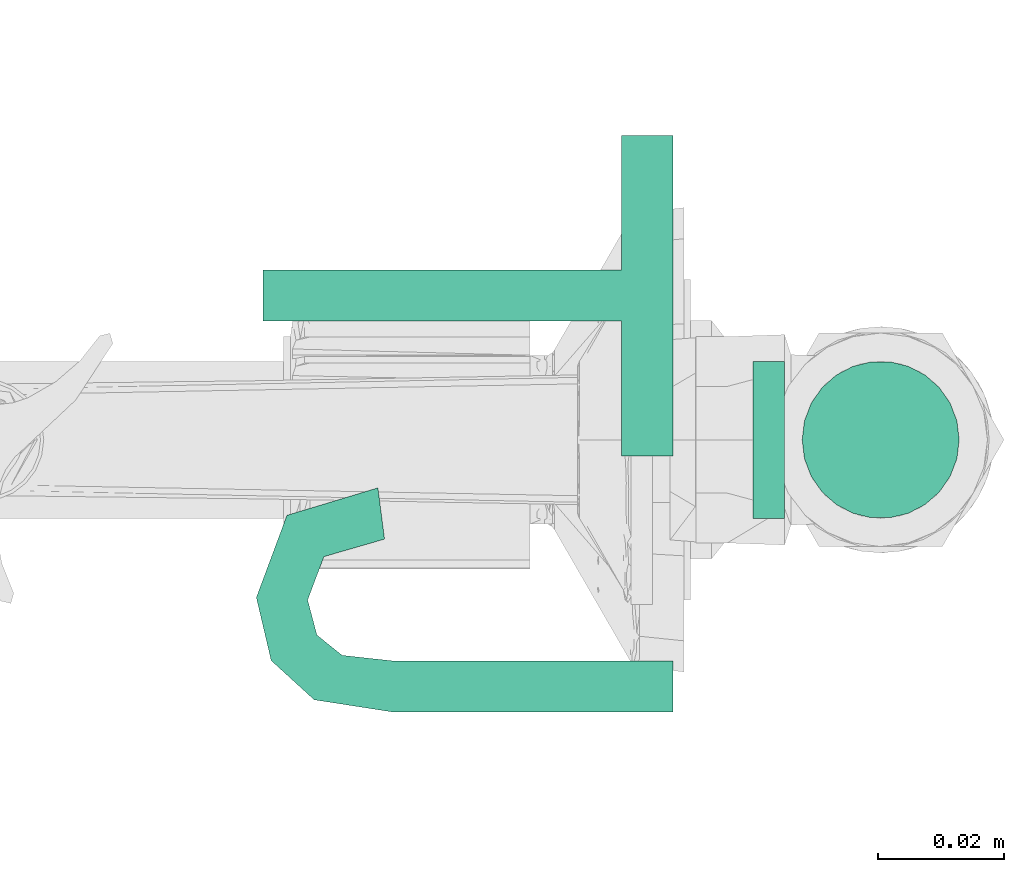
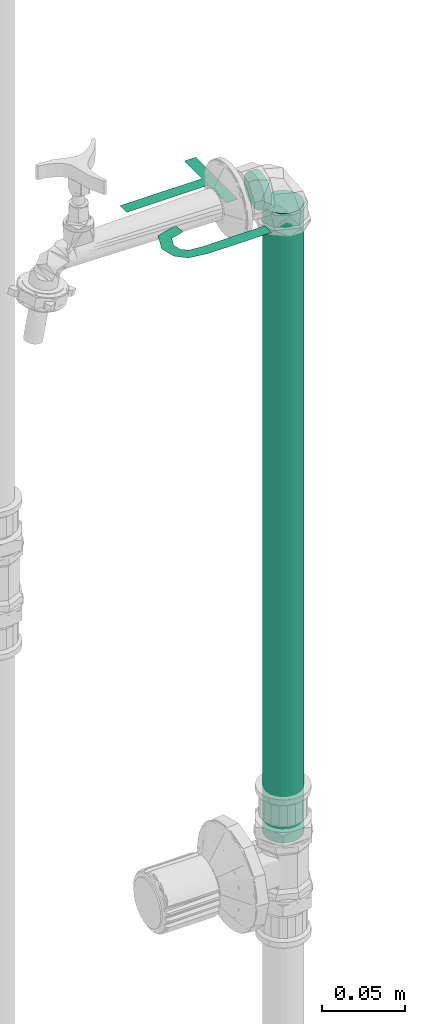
# One storey, part 302 of 589: 1 flow segment, 1 flow terminal.
"""IFC2X3 building model written with IfcOpenShell, lengths in millimetres."""

import ifcopenshell
import ifcopenshell.guid

model = None  # the IFC model being written
_history = None  # IfcOwnerHistory: only IFC2X3 demands one
_inside = {}  # id of a spatial element -> (the spatial element, [elements in it])
_under = {}  # id of a project, library or spatial element -> (it, [spatial elements below it])
_declared = {}  # id of a project -> (the project, [libraries it declares])
_typed = {}  # id of a type object -> (the type object, [elements of that type])
_made_of = {}  # id of a material, layer set ... -> (it, [elements and type objects made of it])


def new_model(schema):
    """Start an empty IFC model of exactly this schema.

    Asked for "IFC4X3", IfcOpenShell would pick the latest addendum, in which some entities
    have other attributes; the version numbers below select the first issue.
    IFC2X3 requires an IfcOwnerHistory on every rooted entity: one is made here for all.
    """
    global model, _history
    if schema == "IFC4X3":
        model = ifcopenshell.file(schema_version=(4, 3, 0, 0))
    else:
        model = ifcopenshell.file(schema=schema)
    _inside.clear()
    _under.clear()
    _declared.clear()
    _typed.clear()
    _made_of.clear()
    _history = None
    if model.schema == "IFC2X3":
        org = make("IfcOrganization", Name="unknown")
        user = make(
            "IfcPersonAndOrganization",
            ThePerson=make("IfcPerson", FamilyName="unknown"),
            TheOrganization=org,
        )
        app = make(
            "IfcApplication",
            ApplicationDeveloper=org,
            Version="unknown",
            ApplicationFullName="unknown",
            ApplicationIdentifier="unknown",
        )
        _history = make(
            "IfcOwnerHistory",
            OwningUser=user,
            OwningApplication=app,
            ChangeAction="ADDED",
            CreationDate=0,
        )
    return model


def make(cls, **values):
    """One entity of the class cls with the attributes given. An attribute that is None is left unset."""
    return model.create_entity(
        cls, **{name: value for name, value in values.items() if value is not None}
    )


def entity(cls, *values):
    """Any entity or typed value of the class cls, its attributes in the order of the schema. None: left unset."""
    e = model.create_entity(cls)
    for i, value in enumerate(values):
        if value is not None:
            e[i] = value
    return e


def rooted(cls, **values):
    """An entity with a GlobalId (a new one), such as an element, a storey or a relation."""
    return make(cls, GlobalId=ifcopenshell.guid.new(), OwnerHistory=_history, **values)


def si_unit(unit_type, name, prefix=None):
    """IfcSIUnit, for example si_unit("LENGTHUNIT", "METRE", prefix="MILLI")."""
    return make("IfcSIUnit", UnitType=unit_type, Prefix=prefix, Name=name)


def converted_unit(unit_type, name, factor, base, dimensions=None, offset=None):
    """IfcConversionBasedUnit, such as the inch: factor (a typed value) times the base unit."""
    return make(
        "IfcConversionBasedUnit"
        if offset is None
        else "IfcConversionBasedUnitWithOffset",
        ConversionOffset=offset,
        Dimensions=None
        if dimensions is None
        else entity("IfcDimensionalExponents", *dimensions),
        UnitType=unit_type,
        Name=name,
        ConversionFactor=make(
            "IfcMeasureWithUnit", ValueComponent=factor, UnitComponent=base
        ),
    )


def derived_unit(unit_type, elements):
    """IfcDerivedUnit: a product of units, each with its exponent."""
    return make(
        "IfcDerivedUnit",
        Elements=[
            make("IfcDerivedUnitElement", Unit=unit, Exponent=power)
            for unit, power in elements
        ],
        UnitType=unit_type,
    )


def assignment(units):
    """IfcUnitAssignment: the units of a project."""
    return None if units is None else make("IfcUnitAssignment", Units=units)


def point(xyz):
    """IfcCartesianPoint."""
    return None if xyz is None else make("IfcCartesianPoint", Coordinates=xyz)


def direction(xyz):
    """IfcDirection."""
    return None if xyz is None else make("IfcDirection", DirectionRatios=xyz)


def frame(location, z_axis=None, x_axis=None):
    """IfcAxis2Placement3D, a coordinate frame: its origin and axes. An axis left out is left unset."""
    return make(
        "IfcAxis2Placement3D",
        Location=point(location),
        Axis=direction(z_axis),
        RefDirection=direction(x_axis),
    )


def frame_2d(location, x_axis=None):
    """IfcAxis2Placement2D, a coordinate frame in the plane: its origin and x axis."""
    return make(
        "IfcAxis2Placement2D", Location=point(location), RefDirection=direction(x_axis)
    )


def origin():
    """The frame at (0, 0, 0) with its axes left unset."""
    return frame((0.0, 0.0, 0.0))


def origin_2d_with_axis():
    """The frame at (0, 0) in the plane with the x axis (1, 0) written out."""
    return frame_2d((0.0, 0.0), x_axis=(1.0, 0.0))


def place(relative_to, where):
    """IfcLocalPlacement: puts the frame where relative to a parent placement (None: the world)."""
    return make(
        "IfcLocalPlacement", PlacementRelTo=relative_to, RelativePlacement=where
    )


def context(
    kind, dimensions, precision=None, world=None, true_north=None, identifier=None
):
    """IfcGeometricRepresentationContext, for example the 3D "Model" context."""
    return make(
        "IfcGeometricRepresentationContext",
        ContextIdentifier=identifier,
        ContextType=kind,
        CoordinateSpaceDimension=dimensions,
        Precision=precision,
        WorldCoordinateSystem=world,
        TrueNorth=true_north,
    )


def subcontext(parent, identifier, kind, view, scale=None):
    """IfcGeometricRepresentationSubContext, for example "Body" below "Model"."""
    return make(
        "IfcGeometricRepresentationSubContext",
        ContextIdentifier=identifier,
        ContextType=kind,
        ParentContext=parent,
        TargetScale=scale,
        TargetView=view,
    )


def project(units=None, contexts=None):
    """IfcProject with its units and contexts."""
    return rooted(
        "IfcProject",
        Name="project",
        RepresentationContexts=contexts,
        UnitsInContext=assignment(units),
    )


def spatial(cls, under=None, at=None, **own):
    """A site, building, storey or space (cls), placed at a placement, below another one or the project."""
    s = rooted(cls, ObjectPlacement=at, **own)
    if under is not None:
        _under.setdefault(under.id(), (under, []))[1].append(s)
    return s


def profile(cls, at=None, kind="AREA", **sizes):
    """A parametric profile (cls). Its sizes go by their IFC names, for example OverallWidth=200.0."""
    return make(cls, ProfileType=kind, Position=at, **sizes)


def circle(**sizes):
    """IfcCircleProfileDef."""
    return profile("IfcCircleProfileDef", **sizes)


def extrude(swept, where, along, depth):
    """IfcExtrudedAreaSolid: the profile swept, set in the frame where, extruded along a direction by depth."""
    return make(
        "IfcExtrudedAreaSolid",
        SweptArea=swept,
        Position=where,
        ExtrudedDirection=direction(along),
        Depth=depth,
    )


def faces_of(points, faces, orient=None, outer=None):
    """IfcFace entities. A face is a list of loops; a loop is a list of indices into points, from 0.

    orient and outer hold one flag for each loop. By default every Orientation is true, the
    first loop of a face is its IfcFaceOuterBound and the others are IfcFaceBound.
    """
    made = []
    for i, loops in enumerate(faces):
        bounds = []
        for j, loop in enumerate(loops):
            is_outer = j == 0 if outer is None else outer[i][j]
            bounds.append(
                make(
                    "IfcFaceOuterBound" if is_outer else "IfcFaceBound",
                    Bound=make("IfcPolyLoop", Polygon=[points[k] for k in loop]),
                    Orientation=True if orient is None else orient[i][j],
                )
            )
        made.append(make("IfcFace", Bounds=bounds))
    return made


def face_set(faces, orient=None, outer=None):
    """The faces of one IfcConnectedFaceSet. surface_model builds it on its shared points."""
    return ("IfcConnectedFaceSet", faces, orient, outer)


def surface_model(cls, points, shells):
    """IfcFaceBasedSurfaceModel or IfcShellBasedSurfaceModel (cls): surfaces that need not close."""
    shared = [point(p) for p in points]
    made = [make(c, CfsFaces=faces_of(shared, fs, o, b)) for c, fs, o, b in shells]
    if cls == "IfcFaceBasedSurfaceModel":
        return make(cls, FbsmFaces=made)
    return make(cls, SbsmBoundary=made)


def shape(context_of_items, identifier, shape_type, items):
    """IfcShapeRepresentation: the items that make up one representation, for example the "Body"."""
    return make(
        "IfcShapeRepresentation",
        ContextOfItems=context_of_items,
        RepresentationIdentifier=identifier,
        RepresentationType=shape_type,
        Items=items,
    )


def source(mapping_origin, context_of_items, identifier, shape_type, items):
    """IfcRepresentationMap: a shape defined once, which mapped items show again and again."""
    return make(
        "IfcRepresentationMap",
        MappingOrigin=mapping_origin,
        MappedRepresentation=shape(context_of_items, identifier, shape_type, items),
    )


def transform(
    local_origin,
    x_axis=None,
    y_axis=None,
    z_axis=None,
    scale=None,
    scale2=None,
    scale3=None,
    uniform=True,
):
    """IfcCartesianTransformationOperator3D, or its non-uniform kind. x_axis, y_axis, z_axis: its Axis1, 2, 3."""
    if uniform:
        return make(
            "IfcCartesianTransformationOperator3D",
            Axis1=direction(x_axis),
            Axis2=direction(y_axis),
            LocalOrigin=point(local_origin),
            Scale=scale,
            Axis3=direction(z_axis),
        )
    return make(
        "IfcCartesianTransformationOperator3DnonUniform",
        Axis1=direction(x_axis),
        Axis2=direction(y_axis),
        LocalOrigin=point(local_origin),
        Scale=scale,
        Axis3=direction(z_axis),
        Scale2=scale2,
        Scale3=scale3,
    )


def mapped(mapping_source, mapping_target):
    """IfcMappedItem: shows the shape of a source again, moved by a transform."""
    return make(
        "IfcMappedItem", MappingSource=mapping_source, MappingTarget=mapping_target
    )


def material(Name=None, Category=None):
    """IfcMaterial."""
    return make("IfcMaterial", Name=Name, Category=Category)


def made_of(thing, what):
    """Note that an element or type object is made of a material, layer set ...; save() writes the relation."""
    if what is not None:
        _made_of.setdefault(what.id(), (what, []))[1].append(thing)
    return thing


def type_object(cls, material=None, **own):
    """A type object (cls), such as IfcWallType, which elements share."""
    return made_of(rooted(cls, **own), material)


def type_shapes(of_type, sources):
    """Give a type object the sources (RepresentationMaps) that its elements show as mapped items."""
    of_type.RepresentationMaps = sources


def element(
    cls,
    number,
    at=None,
    inside=None,
    cuts=None,
    type_object=None,
    material=None,
    context=None,
    identifier="Body",
    shape_type=None,
    held_by="IfcProductDefinitionShape",
    body=None,
    shapes=None,
    **own,
):
    """One element of the class cls, such as IfcWall. Its Tag is "e" and its number.

    at: its placement. inside: the storey or other place that contains it. cuts: it is an
    opening in that element (IfcRelVoidsElement). A single representation is given by context,
    identifier, shape_type and body (its items); several are given by shapes. held_by: the class
    of the entity that holds the representations. save() writes the other relations.
    """
    e = rooted(cls, Tag="e%d" % number, ObjectPlacement=at, **own)
    if body is not None:
        shapes = [shape(context, identifier, shape_type, body)]
    if shapes is not None:
        e.Representation = make(held_by, Representations=shapes)
    if inside is not None:
        _inside.setdefault(inside.id(), (inside, []))[1].append(e)
    if cuts is not None:
        rooted(
            "IfcRelVoidsElement", RelatingBuildingElement=cuts, RelatedOpeningElement=e
        )
    if type_object is not None:
        _typed.setdefault(type_object.id(), (type_object, []))[1].append(e)
    return made_of(e, material)


def aggregate(whole, parts):
    """IfcRelAggregates: a whole, such as a stair, and the parts it consists of."""
    return rooted("IfcRelAggregates", RelatingObject=whole, RelatedObjects=parts)


def save(model, path):
    """Write the relations noted so far, then the file.

    IfcRelAggregates (storeys below a building ...), IfcRelContainedInSpatialStructure (elements
    in a storey), IfcRelDefinesByType, IfcRelAssociatesMaterial and IfcRelDeclares: one each for
    every whole, place, type object, material and project.
    """
    for whole, parts in _under.values():
        aggregate(whole, parts)
    for where, things in _inside.values():
        rooted(
            "IfcRelContainedInSpatialStructure",
            RelatedElements=things,
            RelatingStructure=where,
        )
    for kind, things in _typed.values():
        rooted("IfcRelDefinesByType", RelatedObjects=things, RelatingType=kind)
    for what, things in _made_of.values():
        rooted("IfcRelAssociatesMaterial", RelatedObjects=things, RelatingMaterial=what)
    for by, libraries in _declared.values():
        rooted("IfcRelDeclares", RelatingContext=by, RelatedDefinitions=libraries)
    model.write(path)


model = new_model("IFC2X3")

# Units and contexts
model_context = context("Model", 3, precision=0.01, world=origin(), true_north=direction((6.123031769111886e-17, 1.0)))
body_context = subcontext(model_context, "Body", "Model", "MODEL_VIEW")
ifc_project = project(units=[si_unit("LENGTHUNIT", "METRE", prefix="MILLI"), si_unit("AREAUNIT", "SQUARE_METRE"), si_unit("VOLUMEUNIT", "CUBIC_METRE"), converted_unit("PLANEANGLEUNIT", "DEGREE", entity("IfcRatioMeasure", 0.017453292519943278), si_unit("PLANEANGLEUNIT", "RADIAN"), dimensions=[0, 0, 0, 0, 0, 0, 0]), si_unit("MASSUNIT", "GRAM", prefix="KILO"), derived_unit("MASSDENSITYUNIT", [(si_unit("MASSUNIT", "GRAM", prefix="KILO"), 1), (si_unit("LENGTHUNIT", "METRE"), -3)]), derived_unit("IONCONCENTRATIONUNIT", [(si_unit("MASSUNIT", "GRAM", prefix="KILO"), 1), (si_unit("LENGTHUNIT", "METRE"), -3)]), derived_unit("MOMENTOFINERTIAUNIT", [(si_unit("LENGTHUNIT", "METRE"), 4)]), si_unit("TIMEUNIT", "SECOND"), si_unit("FREQUENCYUNIT", "HERTZ"), si_unit("THERMODYNAMICTEMPERATUREUNIT", "DEGREE_CELSIUS"), derived_unit("THERMALTRANSMITTANCEUNIT", [(si_unit("MASSUNIT", "GRAM", prefix="KILO"), 1), (si_unit("THERMODYNAMICTEMPERATUREUNIT", "KELVIN"), -1), (si_unit("TIMEUNIT", "SECOND"), -3)]), derived_unit("THERMALCONDUCTANCEUNIT", [(si_unit("MASSUNIT", "GRAM", prefix="KILO"), 1), (si_unit("THERMODYNAMICTEMPERATUREUNIT", "KELVIN"), -1), (si_unit("TIMEUNIT", "SECOND"), -3), (si_unit("LENGTHUNIT", "METRE"), 1)]), derived_unit("VOLUMETRICFLOWRATEUNIT", [(si_unit("LENGTHUNIT", "METRE"), 3), (si_unit("TIMEUNIT", "SECOND"), -1)]), derived_unit("MASSFLOWRATEUNIT", [(si_unit("MASSUNIT", "GRAM", prefix="KILO"), 1), (si_unit("TIMEUNIT", "SECOND"), -1)]), derived_unit("ROTATIONALFREQUENCYUNIT", [(si_unit("TIMEUNIT", "SECOND"), -1)]), si_unit("ELECTRICCURRENTUNIT", "AMPERE"), si_unit("ELECTRICVOLTAGEUNIT", "VOLT"), si_unit("POWERUNIT", "WATT"), si_unit("FORCEUNIT", "NEWTON", prefix="KILO"), si_unit("ILLUMINANCEUNIT", "LUX"), si_unit("LUMINOUSFLUXUNIT", "LUMEN"), si_unit("LUMINOUSINTENSITYUNIT", "CANDELA"), derived_unit("USERDEFINED", [(si_unit("MASSUNIT", "GRAM", prefix="KILO"), -1), (si_unit("LENGTHUNIT", "METRE"), -2), (si_unit("TIMEUNIT", "SECOND"), 3), (si_unit("LUMINOUSFLUXUNIT", "LUMEN"), 1)]), derived_unit("USERDEFINED", [(si_unit("MASSUNIT", "GRAM", prefix="KILO"), 1), (si_unit("TIMEUNIT", "SECOND"), -3), (si_unit("LENGTHUNIT", "METRE"), 3), (si_unit("ELECTRICCURRENTUNIT", "AMPERE"), -2)]), derived_unit("SOUNDPOWERUNIT", [(si_unit("MASSUNIT", "GRAM", prefix="KILO"), 1), (si_unit("TIMEUNIT", "SECOND"), -3), (si_unit("LENGTHUNIT", "METRE"), 2)]), derived_unit("SOUNDPRESSUREUNIT", [(si_unit("MASSUNIT", "GRAM", prefix="KILO"), 1), (si_unit("LENGTHUNIT", "METRE"), -1), (si_unit("TIMEUNIT", "SECOND"), -2)]), derived_unit("LINEARVELOCITYUNIT", [(si_unit("LENGTHUNIT", "METRE"), 1), (si_unit("TIMEUNIT", "SECOND"), -1)]), si_unit("PRESSUREUNIT", "PASCAL"), derived_unit("USERDEFINED", [(si_unit("MASSUNIT", "GRAM", prefix="KILO"), 1), (si_unit("LENGTHUNIT", "METRE"), -2), (si_unit("TIMEUNIT", "SECOND"), -2)]), derived_unit("LINEARFORCEUNIT", [(si_unit("MASSUNIT", "GRAM", prefix="KILO"), 1), (si_unit("TIMEUNIT", "SECOND"), -2)]), derived_unit("PLANARFORCEUNIT", [(si_unit("MASSUNIT", "GRAM", prefix="KILO"), 1), (si_unit("LENGTHUNIT", "METRE"), -1), (si_unit("TIMEUNIT", "SECOND"), -2)]), derived_unit("SPECIFICHEATCAPACITYUNIT", [(si_unit("THERMODYNAMICTEMPERATUREUNIT", "KELVIN"), -1), (si_unit("LENGTHUNIT", "METRE"), 2), (si_unit("TIMEUNIT", "SECOND"), -2)]), derived_unit("HEATINGVALUEUNIT", [(si_unit("LENGTHUNIT", "METRE"), 2), (si_unit("TIMEUNIT", "SECOND"), -2)]), derived_unit("VAPORPERMEABILITYUNIT", [(si_unit("LENGTHUNIT", "METRE"), -1), (si_unit("TIMEUNIT", "SECOND"), 1)]), derived_unit("DYNAMICVISCOSITYUNIT", [(si_unit("MASSUNIT", "GRAM", prefix="KILO"), 1), (si_unit("TIMEUNIT", "SECOND"), -1), (si_unit("LENGTHUNIT", "METRE"), -1)]), derived_unit("THERMALEXPANSIONCOEFFICIENTUNIT", [(si_unit("THERMODYNAMICTEMPERATUREUNIT", "KELVIN"), -1)]), derived_unit("MODULUSOFELASTICITYUNIT", [(si_unit("MASSUNIT", "GRAM", prefix="KILO"), 1), (si_unit("LENGTHUNIT", "METRE"), -1), (si_unit("TIMEUNIT", "SECOND"), -2)]), derived_unit("ISOTHERMALMOISTURECAPACITYUNIT", [(si_unit("LENGTHUNIT", "METRE"), 3), (si_unit("MASSUNIT", "GRAM", prefix="KILO"), -1)]), derived_unit("MOISTUREDIFFUSIVITYUNIT", [(si_unit("TIMEUNIT", "SECOND"), -1), (si_unit("LENGTHUNIT", "METRE"), 2)])], contexts=[model_context])

# Site, building, storey
site_placement = place(None, origin())
site = spatial("IfcSite", under=ifc_project, at=site_placement, Name="Default", CompositionType="ELEMENT")
building_placement = place(site_placement, origin())
building = spatial("IfcBuilding", under=site, at=building_placement, CompositionType="ELEMENT")
storey_placement = place(building_placement, frame((0.0, 0.0, 100.0)))
storey = spatial("IfcBuildingStorey", under=building, at=storey_placement, Name="TÉRREO", CompositionType="ELEMENT", Elevation=100.0)

# Flow segment
pipe_segment_type = type_object("IfcPipeSegmentType", Name="Tipos de tubos:PVC Marrom Soldável", PredefinedType="NOTDEFINED")
flow_segment_placement = place(storey_placement, origin())
element("IfcFlowSegment", 1, at=flow_segment_placement, inside=storey, type_object=pipe_segment_type, Name="Tipos de tubos:PVC Marrom Soldável", ObjectType="Tipos de tubos:PVC Marrom Soldável", context=body_context, shape_type="SweptSolid", body=[
    extrude(circle(Radius=12.5, at=origin_2d_with_axis()), frame((22167.427950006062, 6044.222132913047, 520.0)), (0.0, 0.0, 1.0), 464.70000000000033),
])

# Flow terminal
ifc_material = material(Name="<Unnamed>")
distribution_element_type = type_object("IfcDistributionElementType", Name="Hidráulica_Ponto de Utilização_Uso Provável_Rodrigo MEP:Torneira de Jardim TJ (Peso 0,4) 0,5m do Piso", material=ifc_material)
shared_shape = source(origin(), body_context, "Body", "SurfaceModel", [
    surface_model("IfcFaceBasedSurfaceModel", [(21.42544739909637, 1.0202593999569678, 14.095272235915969), (29.58752259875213, 1.0202593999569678, 14.095272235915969), (29.58752259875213, 58.1547857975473, 14.095272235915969), (51.01296999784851, 58.1547857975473, 14.095272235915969), (51.01296999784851, 66.31686099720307, 14.095272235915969), (0.0, 66.31686099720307, 14.095272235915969), (0.0, 58.1547857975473, 14.095272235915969), (21.42544739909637, 58.1547857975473, 14.095272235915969), (56.11426699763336, 19.353045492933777, 14.095272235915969), (60.48225255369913, 4.870144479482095, 14.095272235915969), (73.57026766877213, 0.0, 14.095272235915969), (83.6054753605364, 2.3593498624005, 14.095272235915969), (89.85456418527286, 9.20624692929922, 14.095272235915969), (91.8233459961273, 21.88775243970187, 14.095272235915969), (91.8233459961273, 66.31686099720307, 14.095272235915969), (83.66127079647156, 66.31686099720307, 14.095272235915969), (83.66127079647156, 21.744278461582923, 14.095272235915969), (82.77651459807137, 13.653940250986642, 14.095272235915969), (79.54037931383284, 9.636668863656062, 14.095272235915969), (73.952864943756, 8.162075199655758, 14.095272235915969), (67.06611399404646, 10.760548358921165, 14.095272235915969), (64.27634219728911, 20.405187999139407, 14.095272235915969), (35.96232149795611, 79.08730098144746, 14.095272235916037), (36.38824866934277, 79.08730098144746, 17.330510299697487), (37.637003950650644, 79.08730098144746, 20.345272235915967), (39.623486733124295, 79.08730098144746, 22.934107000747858), (42.21232149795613, 79.08730098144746, 24.92058978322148), (45.22708343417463, 79.08730098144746, 26.16934506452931), (48.46232149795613, 79.08730098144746, 26.59527223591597), (51.69755956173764, 79.08730098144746, 26.16934506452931), (54.712321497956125, 79.08730098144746, 24.92058978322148), (57.30115626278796, 79.08730098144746, 22.93410700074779), (59.2876390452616, 79.08730098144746, 20.345272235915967), (60.53639432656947, 79.08730098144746, 17.330510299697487), (60.96232149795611, 79.08730098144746, 14.0952722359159), (60.53639432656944, 79.08730098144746, 10.860034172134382), (59.28763904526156, 79.08730098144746, 7.845272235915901), (57.30115626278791, 79.08730098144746, 5.256437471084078), (54.712321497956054, 79.08730098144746, 3.269954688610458), (51.69755956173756, 79.08730098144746, 2.0211994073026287), (48.462321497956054, 79.08730098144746, 1.5952722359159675), (45.22708343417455, 79.08730098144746, 2.0211994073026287), (42.21232149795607, 79.08730098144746, 3.2699546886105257), (39.62348673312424, 79.08730098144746, 5.256437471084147), (37.6370039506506, 79.08730098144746, 7.845272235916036), (36.38824866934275, 79.08730098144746, 10.860034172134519), (35.96232149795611, 84.0873009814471, 14.095272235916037), (36.38824866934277, 84.0873009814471, 17.330510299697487), (37.637003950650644, 84.0873009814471, 20.345272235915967), (39.623486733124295, 84.0873009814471, 22.934107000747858), (42.21232149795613, 84.0873009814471, 24.92058978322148), (45.22708343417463, 84.0873009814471, 26.16934506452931), (48.46232149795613, 84.0873009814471, 26.59527223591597), (51.69755956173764, 84.0873009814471, 26.16934506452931), (54.712321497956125, 84.0873009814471, 24.92058978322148), (57.30115626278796, 84.0873009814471, 22.93410700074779), (59.2876390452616, 84.0873009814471, 20.345272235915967), (60.53639432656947, 84.0873009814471, 17.330510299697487), (60.96232149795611, 84.0873009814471, 14.095272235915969), (60.53639432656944, 84.0873009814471, 10.860034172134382), (59.28763904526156, 84.0873009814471, 7.845272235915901), (57.30115626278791, 84.0873009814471, 5.256437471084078), (54.712321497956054, 84.0873009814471, 3.269954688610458), (51.69755956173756, 84.0873009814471, 2.0211994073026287), (48.462321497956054, 84.0873009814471, 1.5952722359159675), (45.22708343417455, 84.0873009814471, 2.0211994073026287), (42.21232149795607, 84.0873009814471, 3.2699546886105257), (39.62348673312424, 84.0873009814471, 5.256437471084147), (37.6370039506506, 84.0873009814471, 7.845272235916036), (36.38824866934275, 84.0873009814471, 10.860034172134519)], [face_set([[[0, 1, 2, 3, 4, 5, 6, 7]], [[8, 9, 10, 11, 12, 13, 14, 15, 16, 17, 18, 19, 20, 21]]]), face_set([[[22, 23, 24, 25, 26, 27, 28, 29, 30, 31, 32, 33, 34, 35, 36, 37, 38, 39, 40, 41, 42, 43, 44, 45]], [[46, 47, 48, 49, 50, 51, 52, 53, 54, 55, 56, 57, 58, 59, 60, 61, 62, 63, 64, 65, 66, 67, 68, 69]], [[46, 69, 45, 22]], [[69, 68, 44, 45]], [[67, 66, 42, 43]], [[68, 67, 43, 44]], [[66, 65, 41, 42]], [[40, 41, 65, 64]], [[64, 63, 39, 40]], [[63, 62, 38, 39]], [[61, 60, 36, 37]], [[62, 61, 37, 38]], [[60, 59, 35, 36]], [[34, 35, 59, 58]], [[58, 57, 33, 34]], [[57, 56, 32, 33]], [[55, 54, 30, 31]], [[56, 55, 31, 32]], [[54, 53, 29, 30]], [[28, 29, 53, 52]], [[52, 51, 27, 28]], [[51, 50, 26, 27]], [[49, 48, 24, 25]], [[50, 49, 25, 26]], [[48, 47, 23, 24]], [[22, 23, 47, 46]]])]),
])
type_shapes(distribution_element_type, [shared_shape])
flow_terminal_placement = place(storey_placement, frame((22068.040649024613, 6092.684454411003, 985.904727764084), z_axis=(0.0, 0.0, 1.0), x_axis=(0.0, -1.0, 0.0)))
element("IfcFlowTerminal", 2, at=flow_terminal_placement, inside=storey, type_object=distribution_element_type, material=ifc_material, Name="Hidráulica_Ponto de Utilização_Uso Provável_Rodrigo MEP:Torneira de Jardim TJ (Peso 0,4) 0,5m do Piso", ObjectType="Hidráulica_Ponto de Utilização_Uso Provável_Rodrigo MEP:Torneira de Jardim TJ (Peso 0,4) 0,5m do Piso", context=body_context, shape_type="MappedRepresentation", body=[
    mapped(shared_shape, transform((0.0, 0.0, 0.0), scale=1.0)),
])

save(model, "model.ifc")
